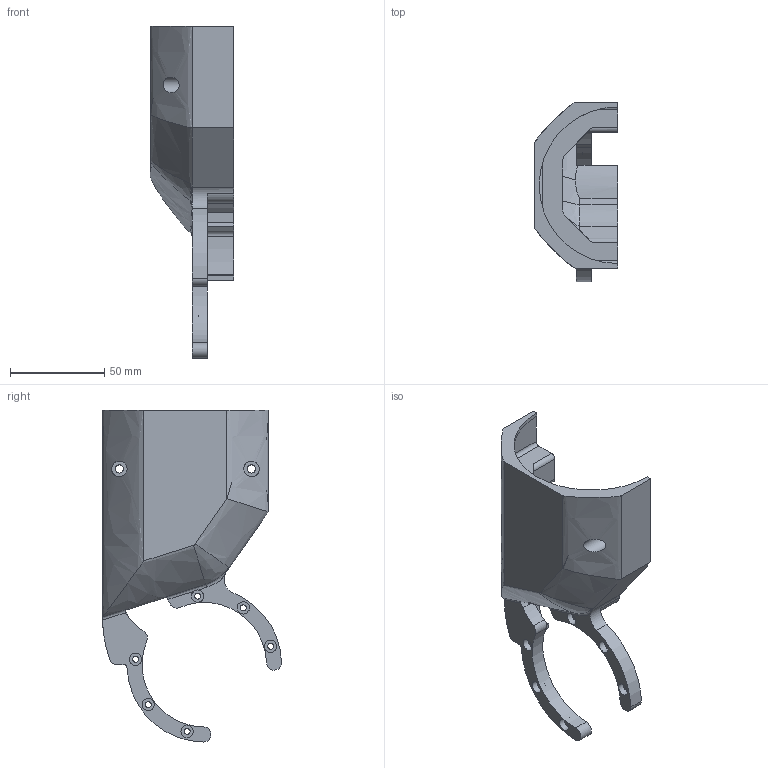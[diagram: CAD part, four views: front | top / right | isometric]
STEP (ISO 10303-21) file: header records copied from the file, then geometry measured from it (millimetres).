
FILE_DESCRIPTION(/* description */ ('STEP AP242 Edition 2','CAx-IF Rec.Pracs.---Representation and Presentation of Product Manufacturing Information (PMI)---4.0---2014-10-13','CAx-IF Rec.Pracs.---3D Tessellated Geometry---0.4---2014-09-14','2;1','CAx-IF Rec.Pracs.---User Defined Attributes---1.5---2016-08-15'),/* implementation_level */ '2;1');
FILE_NAME(/* name */ 'Assy_ForMFG - KD-C-302R_LowerBicepIdle',/* time_stamp */ '2026-05-15T19:56:31Z',/* author */ (''),/* organization */ (''),/* preprocessor_version */ 'ST-DEVELOPER v20',/* originating_system */ 'ONSHAPE BY PTC INC, 1.215',/* authorisation */ ' ');
FILE_SCHEMA (('AP242_MANAGED_MODEL_BASED_3D_ENGINEERING_MIM_LF { 1 0 10303 442 3 1 4 }'));
Length unit declared in the file: metre
Products named in the file (1): KD-C-302R_LowerBicepIdle
Bounding box: 44 x 94.98 x 176 mm (x, y, z)
Volume: 68145.1 mm3; surface area: 46363.4 mm2
Topology: 1 solids, 1 shells, 163 faces, 433 edges, 267 vertices
Faces by surface type: cylinder 63, plane 53, bspline 43, cone 4
Full cylindrical faces by diameter (mm): 3 x2, 3.2 x6, 4.3 x2, 6.5 x6, 8.25 x2
Entity records: 9536 total; most frequent: CARTESIAN_POINT 5951, ORIENTED_EDGE 784, DIRECTION 618, EDGE_CURVE 392, VERTEX_POINT 262, AXIS2_PLACEMENT_3D 236, FACE_BOUND 210, EDGE_LOOP 208
